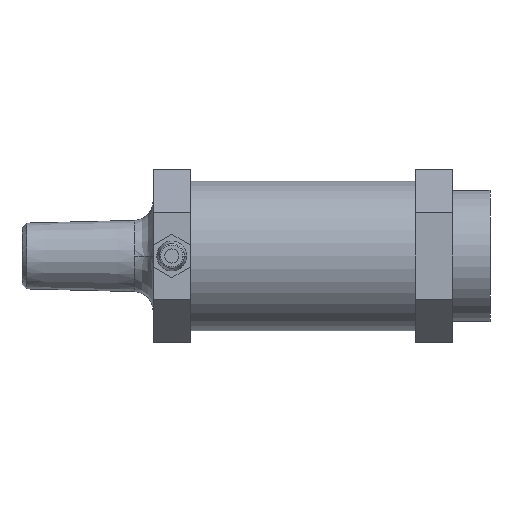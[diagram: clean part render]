
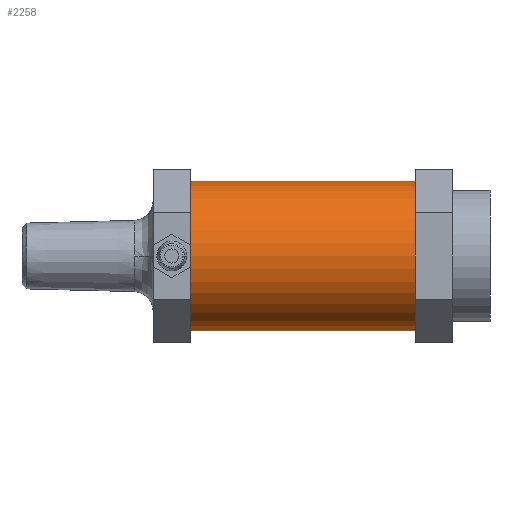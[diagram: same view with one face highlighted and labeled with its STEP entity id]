
A CAD part, front view. The second image highlights one B-rep face of the part: STEP entity #2258.
In plain terms, the highlighted cylindrical face has radius 0.5 mm (diameter 1 mm), a partial arc.
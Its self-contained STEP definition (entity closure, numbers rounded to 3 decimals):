
#2217=CARTESIAN_POINT('',(-2.0,0.0,0.0));
#2218=DIRECTION('',(1.0,0.0,0.0));
#2219=DIRECTION('',(0.0,0.0,-1.0));
#2220=AXIS2_PLACEMENT_3D('',#2217,#2218,#2219);
#2221=CYLINDRICAL_SURFACE('',#2220,0.5);
#2222=CARTESIAN_POINT('',(-0.5,0.0,-0.5));
#2223=VERTEX_POINT('',#2222);
#2224=CARTESIAN_POINT('',(-2.0,0.0,-0.5));
#2225=VERTEX_POINT('',#2224);
#2226=CARTESIAN_POINT('',(-0.5,0.0,-0.5));
#2227=DIRECTION('',(-1.0,0.0,0.0));
#2228=VECTOR('',#2227,1.5);
#2229=LINE('',#2226,#2228);
#2230=EDGE_CURVE('',#2223,#2225,#2229,.T.);
#2231=ORIENTED_EDGE('',*,*,#2230,.F.);
#2232=CARTESIAN_POINT('',(-0.5,0.,0.5));
#2233=VERTEX_POINT('',#2232);
#2234=CARTESIAN_POINT('',(-0.5,0.0,0.0));
#2235=DIRECTION('',(-1.0,0.0,0.0));
#2236=DIRECTION('',(0.0,0.0,-1.0));
#2237=AXIS2_PLACEMENT_3D('',#2234,#2235,#2236);
#2238=CIRCLE('',#2237,0.5);
#2239=EDGE_CURVE('',#2223,#2233,#2238,.T.);
#2240=ORIENTED_EDGE('',*,*,#2239,.T.);
#2241=CARTESIAN_POINT('',(-2.0,0.,0.5));
#2242=VERTEX_POINT('',#2241);
#2243=CARTESIAN_POINT('',(-0.5,0.,0.5));
#2244=DIRECTION('',(-1.0,0.0,0.0));
#2245=VECTOR('',#2244,1.5);
#2246=LINE('',#2243,#2245);
#2247=EDGE_CURVE('',#2233,#2242,#2246,.T.);
#2248=ORIENTED_EDGE('',*,*,#2247,.T.);
#2249=CARTESIAN_POINT('',(-2.0,0.0,0.0));
#2250=DIRECTION('',(1.0,0.0,0.0));
#2251=DIRECTION('',(0.0,0.0,-1.0));
#2252=AXIS2_PLACEMENT_3D('',#2249,#2250,#2251);
#2253=CIRCLE('',#2252,0.5);
#2254=EDGE_CURVE('',#2242,#2225,#2253,.T.);
#2255=ORIENTED_EDGE('',*,*,#2254,.T.);
#2256=EDGE_LOOP('',(#2231,#2240,#2248,#2255));
#2257=FACE_OUTER_BOUND('',#2256,.T.);
#2258=ADVANCED_FACE('',(#2257),#2221,.T.);
